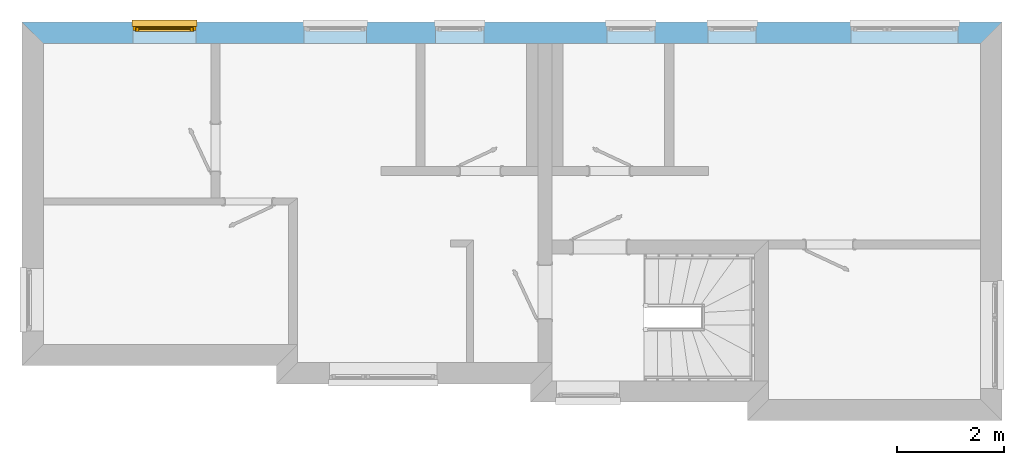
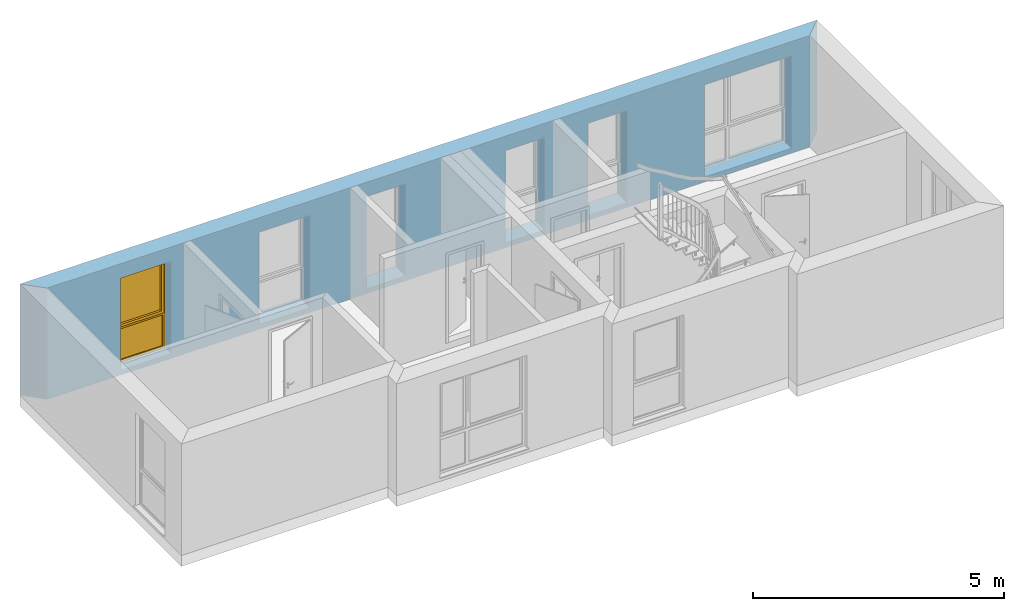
# One storey, part 14 of 16: 1 window, 6 openings, plus 1 element that does not belong to this part.
"""IFC2X3 building model written with IfcOpenShell, lengths in millimetres."""

import ifcopenshell
import ifcopenshell.guid

model = None  # the IFC model being written
_history = None  # IfcOwnerHistory: only IFC2X3 demands one
_inside = {}  # id of a spatial element -> (the spatial element, [elements in it])
_under = {}  # id of a project, library or spatial element -> (it, [spatial elements below it])
_declared = {}  # id of a project -> (the project, [libraries it declares])
_typed = {}  # id of a type object -> (the type object, [elements of that type])
_made_of = {}  # id of a material, layer set ... -> (it, [elements and type objects made of it])


def new_model(schema):
    """Start an empty IFC model of exactly this schema.

    Asked for "IFC4X3", IfcOpenShell would pick the latest addendum, in which some entities
    have other attributes; the version numbers below select the first issue.
    IFC2X3 requires an IfcOwnerHistory on every rooted entity: one is made here for all.
    """
    global model, _history
    if schema == "IFC4X3":
        model = ifcopenshell.file(schema_version=(4, 3, 0, 0))
    else:
        model = ifcopenshell.file(schema=schema)
    _inside.clear()
    _under.clear()
    _declared.clear()
    _typed.clear()
    _made_of.clear()
    _history = None
    if model.schema == "IFC2X3":
        org = make("IfcOrganization", Name="unknown")
        user = make(
            "IfcPersonAndOrganization",
            ThePerson=make("IfcPerson", FamilyName="unknown"),
            TheOrganization=org,
        )
        app = make(
            "IfcApplication",
            ApplicationDeveloper=org,
            Version="unknown",
            ApplicationFullName="unknown",
            ApplicationIdentifier="unknown",
        )
        _history = make(
            "IfcOwnerHistory",
            OwningUser=user,
            OwningApplication=app,
            ChangeAction="ADDED",
            CreationDate=0,
        )
    return model


def make(cls, **values):
    """One entity of the class cls with the attributes given. An attribute that is None is left unset."""
    return model.create_entity(
        cls, **{name: value for name, value in values.items() if value is not None}
    )


def rooted(cls, **values):
    """An entity with a GlobalId (a new one), such as an element, a storey or a relation."""
    return make(cls, GlobalId=ifcopenshell.guid.new(), OwnerHistory=_history, **values)


def si_unit(unit_type, name, prefix=None):
    """IfcSIUnit, for example si_unit("LENGTHUNIT", "METRE", prefix="MILLI")."""
    return make("IfcSIUnit", UnitType=unit_type, Prefix=prefix, Name=name)


def assignment(units):
    """IfcUnitAssignment: the units of a project."""
    return None if units is None else make("IfcUnitAssignment", Units=units)


def point(xyz):
    """IfcCartesianPoint."""
    return None if xyz is None else make("IfcCartesianPoint", Coordinates=xyz)


def direction(xyz):
    """IfcDirection."""
    return None if xyz is None else make("IfcDirection", DirectionRatios=xyz)


def frame(location, z_axis=None, x_axis=None):
    """IfcAxis2Placement3D, a coordinate frame: its origin and axes. An axis left out is left unset."""
    return make(
        "IfcAxis2Placement3D",
        Location=point(location),
        Axis=direction(z_axis),
        RefDirection=direction(x_axis),
    )


def origin_with_axes():
    """The frame at (0, 0, 0) with the z axis (0, 0, 1) and the x axis (1, 0, 0) written out."""
    return frame((0.0, 0.0, 0.0), z_axis=(0.0, 0.0, 1.0), x_axis=(1.0, 0.0, 0.0))


def place(relative_to, where):
    """IfcLocalPlacement: puts the frame where relative to a parent placement (None: the world)."""
    return make(
        "IfcLocalPlacement", PlacementRelTo=relative_to, RelativePlacement=where
    )


def context(
    kind, dimensions, precision=None, world=None, true_north=None, identifier=None
):
    """IfcGeometricRepresentationContext, for example the 3D "Model" context."""
    return make(
        "IfcGeometricRepresentationContext",
        ContextIdentifier=identifier,
        ContextType=kind,
        CoordinateSpaceDimension=dimensions,
        Precision=precision,
        WorldCoordinateSystem=world,
        TrueNorth=true_north,
    )


def project(units=None, contexts=None):
    """IfcProject with its units and contexts."""
    return rooted(
        "IfcProject",
        Name="project",
        RepresentationContexts=contexts,
        UnitsInContext=assignment(units),
    )


def spatial(cls, under=None, at=None, **own):
    """A site, building, storey or space (cls), placed at a placement, below another one or the project."""
    s = rooted(cls, ObjectPlacement=at, **own)
    if under is not None:
        _under.setdefault(under.id(), (under, []))[1].append(s)
    return s


def faces_of(points, faces, orient=None, outer=None):
    """IfcFace entities. A face is a list of loops; a loop is a list of indices into points, from 0.

    orient and outer hold one flag for each loop. By default every Orientation is true, the
    first loop of a face is its IfcFaceOuterBound and the others are IfcFaceBound.
    """
    made = []
    for i, loops in enumerate(faces):
        bounds = []
        for j, loop in enumerate(loops):
            is_outer = j == 0 if outer is None else outer[i][j]
            bounds.append(
                make(
                    "IfcFaceOuterBound" if is_outer else "IfcFaceBound",
                    Bound=make("IfcPolyLoop", Polygon=[points[k] for k in loop]),
                    Orientation=True if orient is None else orient[i][j],
                )
            )
        made.append(make("IfcFace", Bounds=bounds))
    return made


def faceted_brep(points, faces, orient=None, outer=None, voids=None):
    """IfcFacetedBrep: a solid bounded by flat faces; with voids (closed shells), ...WithVoids."""
    shared = [point(p) for p in points]
    hull = make("IfcClosedShell", CfsFaces=faces_of(shared, faces, orient, outer))
    if voids is None:
        return make("IfcFacetedBrep", Outer=hull)
    return make(
        "IfcFacetedBrepWithVoids",
        Outer=hull,
        Voids=[
            make(cls, CfsFaces=faces_of(shared, fs, o, b)) for cls, fs, o, b in voids
        ],
    )


def shape(context_of_items, identifier, shape_type, items):
    """IfcShapeRepresentation: the items that make up one representation, for example the "Body"."""
    return make(
        "IfcShapeRepresentation",
        ContextOfItems=context_of_items,
        RepresentationIdentifier=identifier,
        RepresentationType=shape_type,
        Items=items,
    )


def material(Name=None, Category=None):
    """IfcMaterial."""
    return make("IfcMaterial", Name=Name, Category=Category)


def layer(
    of_material, thickness, ventilated=None, Name=None, Category=None, Priority=None
):
    """IfcMaterialLayer: one layer of a wall or slab, of a material (None: an air gap)."""
    return make(
        "IfcMaterialLayer",
        Material=of_material,
        LayerThickness=thickness,
        IsVentilated=ventilated,
        Name=Name,
        Category=Category,
        Priority=Priority,
    )


def layer_set(layers, Name=None):
    """IfcMaterialLayerSet."""
    return make("IfcMaterialLayerSet", MaterialLayers=layers, LayerSetName=Name)


def layer_usage(for_layer_set, set_direction, sense, offset, extent=None):
    """IfcMaterialLayerSetUsage: how a layer set lies in its element."""
    return make(
        "IfcMaterialLayerSetUsage",
        ForLayerSet=for_layer_set,
        LayerSetDirection=set_direction,
        DirectionSense=sense,
        OffsetFromReferenceLine=offset,
        ReferenceExtent=extent,
    )


def made_of(thing, what):
    """Note that an element or type object is made of a material, layer set ...; save() writes the relation."""
    if what is not None:
        _made_of.setdefault(what.id(), (what, []))[1].append(thing)
    return thing


def type_object(cls, material=None, **own):
    """A type object (cls), such as IfcWallType, which elements share."""
    return made_of(rooted(cls, **own), material)


def element(
    cls,
    number,
    at=None,
    inside=None,
    cuts=None,
    type_object=None,
    material=None,
    context=None,
    identifier="Body",
    shape_type=None,
    held_by="IfcProductDefinitionShape",
    body=None,
    shapes=None,
    **own,
):
    """One element of the class cls, such as IfcWall. Its Tag is "e" and its number.

    at: its placement. inside: the storey or other place that contains it. cuts: it is an
    opening in that element (IfcRelVoidsElement). A single representation is given by context,
    identifier, shape_type and body (its items); several are given by shapes. held_by: the class
    of the entity that holds the representations. save() writes the other relations.
    """
    e = rooted(cls, Tag="e%d" % number, ObjectPlacement=at, **own)
    if body is not None:
        shapes = [shape(context, identifier, shape_type, body)]
    if shapes is not None:
        e.Representation = make(held_by, Representations=shapes)
    if inside is not None:
        _inside.setdefault(inside.id(), (inside, []))[1].append(e)
    if cuts is not None:
        rooted(
            "IfcRelVoidsElement", RelatingBuildingElement=cuts, RelatedOpeningElement=e
        )
    if type_object is not None:
        _typed.setdefault(type_object.id(), (type_object, []))[1].append(e)
    return made_of(e, material)


def fill(opening, filler):
    """IfcRelFillsElement: the door or window that sits in an opening."""
    return rooted(
        "IfcRelFillsElement",
        RelatingOpeningElement=opening,
        RelatedBuildingElement=filler,
    )


def aggregate(whole, parts):
    """IfcRelAggregates: a whole, such as a stair, and the parts it consists of."""
    return rooted("IfcRelAggregates", RelatingObject=whole, RelatedObjects=parts)


def save(model, path):
    """Write the relations noted so far, then the file.

    IfcRelAggregates (storeys below a building ...), IfcRelContainedInSpatialStructure (elements
    in a storey), IfcRelDefinesByType, IfcRelAssociatesMaterial and IfcRelDeclares: one each for
    every whole, place, type object, material and project.
    """
    for whole, parts in _under.values():
        aggregate(whole, parts)
    for where, things in _inside.values():
        rooted(
            "IfcRelContainedInSpatialStructure",
            RelatedElements=things,
            RelatingStructure=where,
        )
    for kind, things in _typed.values():
        rooted("IfcRelDefinesByType", RelatedObjects=things, RelatingType=kind)
    for what, things in _made_of.values():
        rooted("IfcRelAssociatesMaterial", RelatedObjects=things, RelatingMaterial=what)
    for by, libraries in _declared.values():
        rooted("IfcRelDeclares", RelatingContext=by, RelatedDefinitions=libraries)
    model.write(path)


model = new_model("IFC2X3")

# Units and contexts
model_context = context("Model", 3, world=origin_with_axes())
ifc_project = project(units=[si_unit("LENGTHUNIT", "METRE", prefix="MILLI")], contexts=[model_context])

# Site, building, storey
site_placement = place(None, origin_with_axes())
site = spatial("IfcSite", under=ifc_project, at=site_placement, Name="Site", CompositionType="ELEMENT")
building_placement = place(site_placement, origin_with_axes())
building = spatial("IfcBuilding", under=site, at=building_placement, Name="?", CompositionType="ELEMENT")
storey_placement = place(building_placement, frame((0.0, 0.0, 2969.0), z_axis=(0.0, 0.0, 1.0), x_axis=(1.0, 0.0, 0.0)))
storey = spatial("IfcBuildingStorey", under=building, at=storey_placement, Name="Obergeschoß 1", CompositionType="ELEMENT", Elevation=2969.0)

# Wall, openings, window
ifc_material = material(Name="Material_AW")
ifc_layer = layer(ifc_material, 395.0, ventilated=False)
ifc_layer_set = layer_set([ifc_layer], Name="MaterialLayerSet_AW")
ifc_layer_usage = layer_usage(ifc_layer_set, "AXIS2", "NEGATIVE", 197.5)
wall_placement = place(storey_placement, frame((197.5, -197.5, 0.0), z_axis=(0.0, 0.0, 1.0), x_axis=(1.0, 0.0, 0.0)))
wall = element("IfcWall", 1, at=wall_placement, inside=storey, material=ifc_layer_usage, Name="AW-11", context=model_context, shape_type="Brep", body=[
    faceted_brep([(17707.5008600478, -197.5, 0.0), (17707.5008600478, -197.5, 2707.0), (197.5, -197.5, 2707.0), (197.5, -197.5, 0.0), (18102.5001275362, 197.499999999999, 0.0), (18102.5001275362, 197.499999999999, 2707.0), (17707.5008600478, -197.500000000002, 2707.0), (17707.5008600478, -197.500000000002, 0.0), (-197.500233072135, 197.5, 0.0), (-197.500233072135, 197.5, 2707.0), (18102.5001275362, 197.5, 2707.0), (18102.5001275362, 197.5, 0.0), (197.5, -197.5, 0.0), (197.5, -197.5, 2707.0), (-197.500233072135, 197.5, 2707.0), (-197.500233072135, 197.5, 0.0), (197.5, -197.5, 0.0), (-197.500233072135, 197.5, 0.0), (18102.5001275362, 197.5, 0.0), (17707.5008600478, -197.5, 0.0), (-197.500233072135, 197.5, 2707.0), (197.5, -197.5, 2707.0), (17707.5008600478, -197.5, 2707.0), (18102.5001275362, 197.5, 2707.0)], [[[0, 1, 2, 3]], [[4, 5, 6, 7]], [[8, 9, 10, 11]], [[12, 13, 14, 15]], [[16, 17, 18, 19]], [[20, 21, 22, 23]]]),
])
opening_1_placement = place(wall_placement, frame((5067.5, 0.0, 116.0), z_axis=(0.0, 0.0, 1.0), x_axis=(1.0, 0.0, 0.0)))
element("IfcOpeningElement", 2, at=opening_1_placement, cuts=wall, Name="AW-11|FE11", context=model_context, shape_type="Brep", body=[
    faceted_brep([(0.0, 207.5, 0.0), (0.0, 207.5, 2244.0), (1170.0, 207.5, 2244.0), (1170.0, 207.5, 0.0), (0.0, -207.5, 0.0), (0.0, -207.5, 2244.0), (0.0, 207.5, 2244.0), (0.0, 207.5, 0.0), (1170.0, -207.5, 0.0), (0.0, -207.5, 0.0), (0.0, 207.5, 0.0), (1170.0, 207.5, 0.0), (1170.0, -207.5, 2244.0), (1170.0, -207.5, 0.0), (1170.0, 207.5, 0.0), (1170.0, 207.5, 2244.0), (0.0, -207.5, 2244.0), (1170.0, -207.5, 2244.0), (1170.0, 207.5, 2244.0), (0.0, 207.5, 2244.0), (0.0, -207.5, 0.0), (1170.0, -207.5, 0.0), (1170.0, -207.5, 2244.0), (0.0, -207.5, 2244.0)], [[[0, 1, 2, 3]], [[4, 5, 6, 7]], [[8, 9, 10, 11]], [[12, 13, 14, 15]], [[16, 17, 18, 19]], [[20, 21, 22, 23]]]),
])
opening_2_placement = place(wall_placement, frame((10723.5, 0.0, 116.0), z_axis=(0.0, 0.0, 1.0), x_axis=(1.0, 0.0, 0.0)))
element("IfcOpeningElement", 3, at=opening_2_placement, cuts=wall, Name="AW-11|FE13", context=model_context, shape_type="Brep", body=[
    faceted_brep([(0.0, 207.5, 0.0), (0.0, 207.5, 2244.0), (900.0, 207.5, 2244.0), (900.0, 207.5, 0.0), (0.0, -207.5, 0.0), (0.0, -207.5, 2244.0), (0.0, 207.5, 2244.0), (0.0, 207.5, 0.0), (900.0, -207.5, 0.0), (0.0, -207.5, 0.0), (0.0, 207.5, 0.0), (900.0, 207.5, 0.0), (900.0, -207.5, 2244.0), (900.0, -207.5, 0.0), (900.0, 207.5, 0.0), (900.0, 207.5, 2244.0), (0.0, -207.5, 2244.0), (900.0, -207.5, 2244.0), (900.0, 207.5, 2244.0), (0.0, 207.5, 2244.0), (0.0, -207.5, 0.0), (900.0, -207.5, 0.0), (900.0, -207.5, 2244.0), (0.0, -207.5, 2244.0)], [[[0, 1, 2, 3]], [[4, 5, 6, 7]], [[8, 9, 10, 11]], [[12, 13, 14, 15]], [[16, 17, 18, 19]], [[20, 21, 22, 23]]]),
])
opening_3_placement = place(wall_placement, frame((12613.5, 0.0, 116.0), z_axis=(0.0, 0.0, 1.0), x_axis=(1.0, 0.0, 0.0)))
element("IfcOpeningElement", 4, at=opening_3_placement, cuts=wall, Name="AW-11|FE14", context=model_context, shape_type="Brep", body=[
    faceted_brep([(0.0, 207.5, 0.0), (0.0, 207.5, 2244.0), (900.0, 207.5, 2244.0), (900.0, 207.5, 0.0), (0.0, -207.5, 0.0), (0.0, -207.5, 2244.0), (0.0, 207.5, 2244.0), (0.0, 207.5, 0.0), (900.0, -207.5, 0.0), (0.0, -207.5, 0.0), (0.0, 207.5, 0.0), (900.0, 207.5, 0.0), (900.0, -207.5, 2244.0), (900.0, -207.5, 0.0), (900.0, 207.5, 0.0), (900.0, 207.5, 2244.0), (0.0, -207.5, 2244.0), (900.0, -207.5, 2244.0), (900.0, 207.5, 2244.0), (0.0, 207.5, 2244.0), (0.0, -207.5, 0.0), (900.0, -207.5, 0.0), (900.0, -207.5, 2244.0), (0.0, -207.5, 2244.0)], [[[0, 1, 2, 3]], [[4, 5, 6, 7]], [[8, 9, 10, 11]], [[12, 13, 14, 15]], [[16, 17, 18, 19]], [[20, 21, 22, 23]]]),
])
opening_4_placement = place(wall_placement, frame((15287.5, 0.0, 116.0), z_axis=(0.0, 0.0, 1.0), x_axis=(1.0, 0.0, 0.0)))
element("IfcOpeningElement", 5, at=opening_4_placement, cuts=wall, Name="AW-11|FE15", context=model_context, shape_type="Brep", body=[
    faceted_brep([(0.0, 207.5, 0.0), (0.0, 207.5, 2244.0), (2000.0, 207.5, 2244.0), (2000.0, 207.5, 0.0), (0.0, -207.5, 0.0), (0.0, -207.5, 2244.0), (0.0, 207.5, 2244.0), (0.0, 207.5, 0.0), (2000.0, -207.5, 0.0), (0.0, -207.5, 0.0), (0.0, 207.5, 0.0), (2000.0, 207.5, 0.0), (2000.0, -207.5, 2244.0), (2000.0, -207.5, 0.0), (2000.0, 207.5, 0.0), (2000.0, 207.5, 2244.0), (0.0, -207.5, 2244.0), (2000.0, -207.5, 2244.0), (2000.0, 207.5, 2244.0), (0.0, 207.5, 2244.0), (0.0, -207.5, 0.0), (2000.0, -207.5, 0.0), (2000.0, -207.5, 2244.0), (0.0, -207.5, 2244.0)], [[[0, 1, 2, 3]], [[4, 5, 6, 7]], [[8, 9, 10, 11]], [[12, 13, 14, 15]], [[16, 17, 18, 19]], [[20, 21, 22, 23]]]),
])
opening_5_placement = place(wall_placement, frame((7527.5, 0.0, 116.0), z_axis=(0.0, 0.0, 1.0), x_axis=(1.0, 0.0, 0.0)))
element("IfcOpeningElement", 6, at=opening_5_placement, cuts=wall, Name="AW-11|FE12", context=model_context, shape_type="Brep", body=[
    faceted_brep([(0.0, 207.5, 0.0), (0.0, 207.5, 2244.0), (900.0, 207.5, 2244.0), (900.0, 207.5, 0.0), (0.0, -207.5, 0.0), (0.0, -207.5, 2244.0), (0.0, 207.5, 2244.0), (0.0, 207.5, 0.0), (900.0, -207.5, 0.0), (0.0, -207.5, 0.0), (0.0, 207.5, 0.0), (900.0, 207.5, 0.0), (900.0, -207.5, 2244.0), (900.0, -207.5, 0.0), (900.0, 207.5, 0.0), (900.0, 207.5, 2244.0), (0.0, -207.5, 2244.0), (900.0, -207.5, 2244.0), (900.0, 207.5, 2244.0), (0.0, 207.5, 2244.0), (0.0, -207.5, 0.0), (900.0, -207.5, 0.0), (900.0, -207.5, 2244.0), (0.0, -207.5, 2244.0)], [[[0, 1, 2, 3]], [[4, 5, 6, 7]], [[8, 9, 10, 11]], [[12, 13, 14, 15]], [[16, 17, 18, 19]], [[20, 21, 22, 23]]]),
])
opening_6_placement = place(wall_placement, frame((1877.5, 0.0, 116.0), z_axis=(0.0, 0.0, 1.0), x_axis=(1.0, 0.0, 0.0)))
opening_6 = element("IfcOpeningElement", 7, at=opening_6_placement, cuts=wall, Name="AW-11|FE10", context=model_context, shape_type="Brep", body=[
    faceted_brep([(0.0, 207.5, 0.0), (0.0, 207.5, 2244.0), (1170.0, 207.5, 2244.0), (1170.0, 207.5, 0.0), (0.0, -207.5, 0.0), (0.0, -207.5, 2244.0), (0.0, 207.5, 2244.0), (0.0, 207.5, 0.0), (1170.0, -207.5, 0.0), (0.0, -207.5, 0.0), (0.0, 207.5, 0.0), (1170.0, 207.5, 0.0), (1170.0, -207.5, 2244.0), (1170.0, -207.5, 0.0), (1170.0, 207.5, 0.0), (1170.0, 207.5, 2244.0), (0.0, -207.5, 2244.0), (1170.0, -207.5, 2244.0), (1170.0, 207.5, 2244.0), (0.0, 207.5, 2244.0), (0.0, -207.5, 0.0), (1170.0, -207.5, 0.0), (1170.0, -207.5, 2244.0), (0.0, -207.5, 2244.0)], [[[0, 1, 2, 3]], [[4, 5, 6, 7]], [[8, 9, 10, 11]], [[12, 13, 14, 15]], [[16, 17, 18, 19]], [[20, 21, 22, 23]]]),
])
window_style = type_object("IfcWindowStyle", Name="FE10", ConstructionType="NOTDEFINED", OperationType="DOUBLE_PANEL_HORIZONTAL", ParameterTakesPrecedence=True, Sizeable=False)
window_placement = place(opening_6_placement, frame((1170.0, 77.5, 0.0), z_axis=(0.0, 0.0, 1.0), x_axis=(-1.0, 0.0, 0.0)))
window = element("IfcWindow", 8, at=window_placement, inside=storey, type_object=window_style, Name="FE10", OverallHeight=2244.0, OverallWidth=1170.0, context=model_context, shape_type="Brep", body=[
    faceted_brep([(0.0, -36.0, 0.0), (1170.0, -36.0, 0.0), (1155.0, -36.0, 15.0), (15.0, -36.0, 15.0), (15.0, 36.0, 15.0), (1155.0, 36.0, 15.0), (1170.0, 36.0, 0.0), (0.0, 36.0, 0.0), (0.0, 36.0, 0.0), (1170.0, 36.0, 0.0), (1170.0, -36.0, 0.0), (0.0, -36.0, 0.0), (1170.0, -36.0, 0.0), (1170.0, -36.0, 2244.0), (1155.0, -36.0, 2229.0), (1155.0, -36.0, 15.0), (1155.0, 36.0, 15.0), (1155.0, 36.0, 2229.0), (1170.0, 36.0, 2244.0), (1170.0, 36.0, 0.0), (1170.0, 36.0, 0.0), (1170.0, 36.0, 2244.0), (1170.0, -36.0, 2244.0), (1170.0, -36.0, 0.0), (1170.0, -36.0, 2244.0), (0.0, -36.0, 2244.0), (15.0, -36.0, 2229.0), (1155.0, -36.0, 2229.0), (1155.0, 36.0, 2229.0), (15.0, 36.0, 2229.0), (0.0, 36.0, 2244.0), (1170.0, 36.0, 2244.0), (1170.0, 36.0, 2244.0), (0.0, 36.0, 2244.0), (0.0, -36.0, 2244.0), (1170.0, -36.0, 2244.0), (0.0, -36.0, 2244.0), (0.0, -36.0, 0.0), (15.0, -36.0, 15.0), (15.0, -36.0, 2229.0), (15.0, 36.0, 2229.0), (15.0, 36.0, 15.0), (0.0, 36.0, 0.0), (0.0, 36.0, 2244.0), (0.0, 36.0, 2244.0), (0.0, 36.0, 0.0), (0.0, -36.0, 0.0), (0.0, -36.0, 2244.0), (1155.0, 36.0, 15.0), (15.0, 36.0, 15.0), (53.0, 36.0, 53.0), (1117.0, 36.0, 53.0), (1117.0, 36.0, 53.0), (53.0000000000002, 36.0, 53.0), (60.0000000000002, 24.9985352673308, 60.0009767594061), (1110.0, 24.9985352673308, 60.0009767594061), (1110.0, 25.0, 60.0), (60.0, 25.0, 60.0), (60.0, 12.0, 60.0), (1110.0, 12.0, 60.0), (1110.0, -12.0, 60.0), (60.0, -12.0, 60.0), (60.0, -25.0, 60.0), (1110.0, -25.0, 60.0), (1110.0, 12.0, 60.0), (60.0, 12.0, 60.0), (43.0, 12.0, 43.0), (1127.0, 12.0, 43.0), (1127.0, 12.0, 43.0), (43.0, 12.0, 43.0), (43.0, -12.0, 43.0), (1127.0, -12.0, 43.0), (1127.0, -12.0, 43.0), (43.0, -12.0, 43.0), (60.0, -12.0, 60.0), (1110.0, -12.0, 60.0), (1110.0, -25.0, 60.0), (60.0, -25.0, 60.0), (53.0, -36.0014647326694, 52.9990232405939), (1117.0, -36.0014647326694, 52.9990232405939), (1117.0, -36.0, 53.0), (53.0, -36.0, 53.0), (15.0, -36.0, 15.0), (1155.0, -36.0, 15.0), (1155.0, 36.0, 855.0), (1155.0, 36.0, 15.0), (1117.0, 36.0, 53.0), (1117.0, 36.0, 817.0), (1117.0, 35.9999999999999, 817.00048828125), (1117.0, 35.9999999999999, 53.00048828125), (1109.99902324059, 24.9985352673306, 60.00048828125), (1109.99902324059, 24.9985352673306, 810.00048828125), (1110.0, 25.0, 810.0), (1110.0, 25.0, 60.0), (1110.0, 12.0, 60.0), (1110.0, 12.0, 810.0), (1110.0, -12.0, 810.0), (1110.0, -12.0, 60.0), (1110.0, -25.0, 60.0), (1110.0, -25.0, 810.0), (1110.0, 12.0, 810.0), (1110.0, 12.0, 60.0), (1127.0, 12.0, 43.0), (1127.0, 12.0, 827.0), (1127.0, 12.0, 827.000244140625), (1127.0, 12.0, 43.000244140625), (1127.0, -12.0, 43.000244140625), (1127.0, -12.0, 827.000244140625), (1127.0, -12.0, 827.000244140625), (1127.0, -12.0, 43.000244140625), (1110.0, -12.0, 60.000244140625), (1110.0, -12.0, 810.000244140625), (1110.0, -25.0, 810.0), (1110.0, -25.0, 60.0), (1117.00097675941, -36.0014647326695, 53.0), (1117.00097675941, -36.0014647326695, 817.0), (1117.0, -36.0, 817.00048828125), (1117.0, -36.0, 53.00048828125), (1155.0, -36.0, 15.00048828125), (1155.0, -36.0, 855.00048828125), (15.0, 36.0, 855.0), (43.0, 36.0, 883.0), (1127.0, 36.0, 883.0), (1155.0, 36.0, 855.0), (1117.0, 36.0, 817.0), (53.0, 36.0, 817.0), (53.0, 36.0, 817.0), (1117.0, 36.0, 817.0), (1110.0, 24.9985352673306, 809.999023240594), (60.0, 24.9985352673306, 809.999023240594), (60.0, 25.0, 810.0), (1110.0, 25.0, 810.0), (1110.0, 12.0, 810.0), (60.0, 12.0, 810.0), (60.0, -12.0, 810.0), (1110.0, -12.0, 810.0), (1110.0, -25.0, 810.0), (60.0, -25.0, 810.0), (60.0, 12.0, 810.0), (1110.0, 12.0, 810.0), (1127.0, 12.0, 827.0), (43.0, 12.0, 827.0), (43.0, 12.0, 827.0), (1127.0, 12.0, 827.0), (1127.0, -12.0, 827.0), (43.0, -12.0, 827.0), (43.0, -12.0, 827.0), (1127.0, -12.0, 827.0), (1110.0, -12.0, 810.0), (60.0, -12.0, 810.0), (59.9999999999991, -25.0, 810.0), (1110.0, -25.0, 810.0), (1117.0, -36.0014647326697, 817.000976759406), (52.9999999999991, -36.0014647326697, 817.000976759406), (53.0, -36.0, 817.0), (1117.0, -36.0, 817.0), (1155.0, -36.0, 855.0), (1117.0, -36.0, 893.0), (53.0, -36.0, 893.0), (15.0, -36.0, 855.0), (1127.0, 36.0, 883.0), (43.0, 36.0, 883.0), (43.0, -21.0, 883.0), (1127.0, -21.0, 883.0), (1127.0, -21.0, 883.0), (43.0, -21.0, 883.0), (60.0, -21.0, 900.0), (1110.0, -21.0, 900.0), (1110.0, -21.0, 900.0), (60.0, -21.0, 900.0), (60.0, -25.0, 900.0), (1110.0, -25.0, 900.0), (1110.0, -25.0, 900.0), (59.9999999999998, -25.0, 900.0), (52.9999999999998, -36.0014647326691, 892.999023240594), (1117.0, -36.0014647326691, 892.999023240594), (15.0, 36.0, 15.0), (15.0, 36.0, 855.0), (53.0, 36.0, 817.0), (53.0, 36.0, 53.0), (53.0, 36.0, 52.9999999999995), (53.0, 36.0, 817.0), (60.0009767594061, 24.9985352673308, 810.0), (60.0009767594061, 24.9985352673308, 59.9999999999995), (60.0, 25.0, 60.0), (60.0, 25.0, 810.0), (60.0, 12.0, 810.0), (60.0, 12.0, 60.0), (60.0, -12.0, 60.0), (60.0, -12.0, 810.0), (60.0, -25.0, 810.0), (60.0, -25.0, 60.0), (60.0, 12.0, 60.0), (60.0, 12.0, 810.0), (43.0, 12.0, 827.0), (43.0, 12.0, 43.0), (43.0, 12.0, 42.999755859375), (43.0, 12.0, 826.999755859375), (43.0, -12.0, 826.999755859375), (43.0, -12.0, 42.999755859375), (43.0, -12.0, 42.999755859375), (43.0, -12.0, 826.999755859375), (60.0, -12.0, 809.999755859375), (60.0, -12.0, 59.999755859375), (60.0, -25.0, 60.0), (60.0, -25.0, 810.0), (52.9990232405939, -36.0014647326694, 817.0), (52.9990232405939, -36.0014647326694, 53.0), (53.0, -36.0, 53.0), (53.0, -36.0, 817.0), (15.0, -36.0, 855.0), (15.0, -36.0, 15.0), (1155.0, 36.0, 2229.0), (1155.0, 36.0, 855.0), (1127.0, 36.0, 883.0), (1127.0, 36.0, 2201.0), (1127.0, 36.0, 2201.0), (1127.0, 36.0, 883.0), (1127.0, -21.0, 883.0), (1127.0, -21.0, 2201.0), (1127.0, -21.0, 2201.0), (1127.0, -21.0, 883.0), (1110.0, -21.0, 900.0), (1110.0, -21.0, 2184.0), (1110.0, -21.0, 2184.0), (1110.0, -21.0, 900.0), (1110.0, -25.0, 900.0), (1110.0, -25.0, 2184.0), (1110.0, -25.0, 2184.0), (1110.0, -25.0, 900.0), (1117.00097675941, -36.0014647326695, 893.0), (1117.00097675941, -36.0014647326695, 2191.0), (1117.0, -36.0, 2191.0), (1117.0, -36.0, 893.0), (1155.0, -36.0, 855.0), (1155.0, -36.0, 2229.0), (15.0, 36.0, 2229.0), (1155.0, 36.0, 2229.0), (1127.0, 36.0, 2201.0), (43.0, 36.0, 2201.0), (43.0, 36.0, 2201.0), (1127.0, 36.0, 2201.0), (1127.0, -21.0, 2201.0), (43.0, -21.0, 2201.0), (43.0, -21.0, 2201.0), (1127.0, -21.0, 2201.0), (1110.0, -21.0, 2184.0), (60.0, -21.0, 2184.0), (60.0, -21.0, 2184.0), (1110.0, -21.0, 2184.0), (1110.0, -25.0, 2184.0), (60.0, -25.0, 2184.0), (60.0, -25.0, 2184.0), (1110.0, -25.0, 2184.0), (1117.0, -36.0014647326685, 2191.00097675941), (53.0, -36.0014647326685, 2191.00097675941), (53.0, -36.0, 2191.0), (1117.0, -36.0, 2191.0), (1155.0, -36.0, 2229.0), (15.0, -36.0, 2229.0), (15.0, 36.0, 855.0), (15.0, 36.0, 2229.0), (43.0, 36.0, 2201.0), (43.0, 36.0, 883.0), (43.0, 36.0, 882.999755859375), (43.0, 36.0, 2201.0), (43.0, -21.0, 2201.0), (43.0, -21.0, 882.999755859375), (43.0, -21.0, 882.999755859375), (43.0, -21.0, 2201.0), (60.0, -21.0, 2184.0), (60.0, -21.0, 899.999755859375), (60.0, -21.0, 900.0), (60.0, -21.0, 2184.0), (60.0, -25.0, 2184.0), (60.0, -25.0, 900.0), (60.0, -25.0, 900.0), (60.0, -25.0, 2184.0), (52.9990232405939, -36.0014647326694, 2191.0), (52.9990232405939, -36.0014647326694, 893.0), (53.0, -36.0, 893.0), (53.0, -36.0, 2191.0), (15.0, -36.0, 2229.0), (15.0, -36.0, 855.0), (1137.0, 52.0, 873.0), (33.0, 52.0, 873.0), (96.0, 52.0, 936.0), (1074.0, 52.0, 936.0), (1074.0, 52.0, 936.0), (96.0, 52.0, 936.0), (110.0, 19.9985360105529, 950.00048798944), (1060.0, 19.9985360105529, 950.00048798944), (1060.0, 20.0, 950.0), (110.0, 20.0, 950.0), (103.0, 20.0, 943.0), (1067.0, 20.0, 943.0), (1067.0, 20.0, 943.0), (103.0, 20.0, 943.0), (103.0, -4.0, 943.0), (1067.0, -4.0, 943.0), (1067.0, -4.0, 943.0), (103.0, -4.0, 943.0), (110.0, -4.0, 950.0), (1060.0, -4.0, 950.0), (1060.0, -4.0, 950.0), (110.0, -4.0, 950.0), (102.0, -21.0014648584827, 941.999267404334), (1068.0, -21.0014648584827, 941.999267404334), (1068.0, -21.0, 942.0), (102.0, -21.0, 942.0), (51.0, -21.0, 891.0), (1119.0, -21.0, 891.0), (1119.0, -21.0, 891.0), (51.0, -21.0, 891.0), (51.0, 36.0, 891.0), (1119.0, 36.0, 891.0), (1119.0, 36.0, 891.0), (51.0, 36.0, 891.0), (33.0, 36.0, 873.0), (1137.0, 36.0, 873.0), (1137.0, 36.0, 873.0), (33.0, 36.0, 873.0), (33.0, 52.0, 873.0), (1137.0, 52.0, 873.0), (1137.0, 52.0, 2210.99951171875), (1137.0, 52.0, 872.99951171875), (1074.0, 52.0, 935.99951171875), (1074.0, 52.0, 2147.99951171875), (1074.0, 52.0000000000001, 2148.0), (1074.0, 52.0000000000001, 936.0), (1059.99902341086, 19.9985357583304, 950.0), (1059.99902341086, 19.9985357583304, 2134.0), (1060.0, 20.0, 2134.00048828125), (1060.0, 20.0, 950.00048828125), (1067.0, 20.0, 943.00048828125), (1067.0, 20.0, 2141.00048828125), (1067.0, 20.0, 2141.0), (1067.0, 20.0, 943.0), (1067.0, -4.0, 943.0), (1067.0, -4.0, 2141.0), (1067.0, -4.0, 2141.0), (1067.0, -4.0, 943.0), (1060.0, -4.0, 950.0), (1060.0, -4.0, 2134.0), (1060.0, -4.0, 2134.00048828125), (1060.0, -4.0, 950.00048828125), (1068.00097677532, -21.0014648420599, 942.00048828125), (1068.00097677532, -21.0014648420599, 2142.00048828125), (1068.0, -21.0, 2142.0), (1068.0, -21.0, 942.0), (1119.0, -21.0, 891.0), (1119.0, -21.0, 2193.0), (1119.0, -21.0, 2193.0), (1119.0, -21.0, 891.0), (1119.0, 36.0, 891.0), (1119.0, 36.0, 2193.0), (1119.0, 36.0, 2193.0), (1119.0, 36.0, 891.0), (1137.0, 36.0, 873.0), (1137.0, 36.0, 2211.0), (1137.0, 36.0, 2210.99951171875), (1137.0, 36.0, 872.99951171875), (1137.0, 52.0, 872.99951171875), (1137.0, 52.0, 2210.99951171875), (33.0, 52.0, 2211.0), (1137.0, 52.0, 2211.0), (1074.0, 52.0, 2148.0), (96.0, 52.0, 2148.0), (95.9999999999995, 52.0, 2148.0), (1074.0, 52.0, 2148.0), (1060.0, 19.9985360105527, 2133.99951201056), (110.0, 19.9985360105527, 2133.99951201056), (110.0, 20.0, 2134.0), (1060.0, 20.0, 2134.0), (1067.0, 20.0, 2141.0), (103.0, 20.0, 2141.0), (103.0, 20.0, 2141.0), (1067.0, 20.0, 2141.0), (1067.0, -4.0, 2141.0), (103.0, -4.0, 2141.0), (103.0, -4.0, 2141.0), (1067.0, -4.0, 2141.0), (1060.0, -4.0, 2134.0), (110.0, -4.0, 2134.0), (110.0, -4.0, 2134.0), (1060.0, -4.0, 2134.0), (1068.0, -21.0014648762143, 2142.00048841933), (102.0, -21.0014648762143, 2142.00048841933), (102.0, -21.0, 2142.0), (1068.0, -21.0, 2142.0), (1119.0, -21.0, 2193.0), (51.0, -21.0, 2193.0), (51.0, -21.0, 2193.0), (1119.0, -21.0, 2193.0), (1119.0, 36.0, 2193.0), (51.0, 36.0, 2193.0), (51.0, 36.0, 2193.0), (1119.0, 36.0, 2193.0), (1137.0, 36.0, 2211.0), (33.0, 36.0, 2211.0), (33.0, 36.0, 2211.0), (1137.0, 36.0, 2211.0), (1137.0, 52.0, 2211.0), (33.0, 52.0, 2211.0), (33.0, 52.0, 873.00048828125), (33.0, 52.0, 2211.00048828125), (96.0, 52.0, 2148.00048828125), (96.0, 52.0, 936.00048828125), (96.0, 52.0, 935.999755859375), (96.0, 52.0, 2148.0), (110.00048798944, 19.9985360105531, 2134.0), (110.00048798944, 19.9985360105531, 949.999755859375), (110.0, 20.0, 949.999755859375), (110.0, 20.0, 2134.0), (103.0, 20.0, 2141.0), (103.0, 20.0, 942.999755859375), (103.0, 20.0, 942.999755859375), (103.0, 20.0, 2141.0), (103.0, -4.0, 2141.0), (103.0, -4.0, 942.999755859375), (103.0, -4.0, 942.999755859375), (103.0, -4.0, 2141.0), (110.0, -4.0, 2134.0), (110.0, -4.0, 949.999755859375), (110.0, -4.0, 949.999755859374), (110.0, -4.0, 2134.0), (101.999023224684, -21.0014648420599, 2142.0), (101.999023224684, -21.0014648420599, 941.999755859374), (102.0, -21.0, 942.0), (102.0, -21.0, 2142.0), (51.0, -21.0, 2193.0), (51.0, -21.0, 891.0), (51.0, -21.0, 890.999755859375), (51.0, -21.0, 2193.0), (51.0, 36.0, 2193.0), (51.0, 36.0, 890.999755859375), (51.0, 36.0, 890.999755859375), (51.0, 36.0, 2193.0), (33.0, 36.0, 2211.0), (33.0, 36.0, 872.999755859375), (33.0, 36.0, 873.00048828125), (33.0, 36.0, 2211.00048828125), (33.0, 52.0, 2211.00048828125), (33.0, 52.0, 873.00048828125), (60.0, 12.0, 60.0), (60.0, 12.0, 810.0), (1110.0, 12.0, 810.0), (1110.0, 12.0, 60.0), (60.0, -12.0, 60.0), (1110.0, -12.0, 60.0), (1110.0, -12.0, 810.0), (60.0, -12.0, 810.0), (110.0, 20.0, 950.0), (110.0, 20.0, 2134.0), (1060.0, 20.0, 2134.0), (1060.0, 20.0, 950.0), (110.0, -4.0, 950.0), (1060.0, -4.0, 950.0), (1060.0, -4.0, 2134.0), (110.0, -4.0, 2134.0), (-20.0, -36.0, 0.5), (-20.0, -160.0, 0.5), (1190.0, -160.0, 0.5), (1190.0, -36.0, 0.5), (-20.0, -36.0, -19.5), (-20.0, -36.0, 0.5), (1190.0, -36.0, 0.5), (1190.0, -36.0, -19.5), (-20.0, -160.0, -19.5), (-20.0, -36.0, -19.5), (1190.0, -36.0, -19.5), (1190.0, -160.0, -19.5), (-20.0, -160.0, 0.5), (-20.0, -160.0, -19.5), (1190.0, -160.0, -19.5), (1190.0, -160.0, 0.5), (-20.0, -160.0, -19.5), (-20.0, -160.0, 0.5), (-20.0, -36.0, 0.5), (-20.0, -36.0, -19.5), (1190.0, -160.0, 0.5), (1190.0, -160.0, -19.5), (1190.0, -36.0, -19.5), (1190.0, -36.0, 0.5)], [[[0, 1, 2, 3]], [[4, 5, 6, 7]], [[8, 9, 10, 11]], [[12, 13, 14, 15]], [[16, 17, 18, 19]], [[20, 21, 22, 23]], [[24, 25, 26, 27]], [[28, 29, 30, 31]], [[32, 33, 34, 35]], [[36, 37, 38, 39]], [[40, 41, 42, 43]], [[44, 45, 46, 47]], [[48, 49, 50, 51]], [[52, 53, 54, 55]], [[56, 57, 58, 59]], [[60, 61, 62, 63]], [[64, 65, 66, 67]], [[68, 69, 70, 71]], [[72, 73, 74, 75]], [[76, 77, 78, 79]], [[80, 81, 82, 83]], [[84, 85, 86, 87]], [[88, 89, 90, 91]], [[92, 93, 94, 95]], [[96, 97, 98, 99]], [[100, 101, 102, 103]], [[104, 105, 106, 107]], [[108, 109, 110, 111]], [[112, 113, 114, 115]], [[116, 117, 118, 119]], [[120, 121, 122, 123, 124, 125]], [[126, 127, 128, 129]], [[130, 131, 132, 133]], [[134, 135, 136, 137]], [[138, 139, 140, 141]], [[142, 143, 144, 145]], [[146, 147, 148, 149]], [[150, 151, 152, 153]], [[154, 155, 156, 157, 158, 159]], [[160, 161, 162, 163]], [[164, 165, 166, 167]], [[168, 169, 170, 171]], [[172, 173, 174, 175]], [[176, 177, 178, 179]], [[180, 181, 182, 183]], [[184, 185, 186, 187]], [[188, 189, 190, 191]], [[192, 193, 194, 195]], [[196, 197, 198, 199]], [[200, 201, 202, 203]], [[204, 205, 206, 207]], [[208, 209, 210, 211]], [[212, 213, 214, 215]], [[216, 217, 218, 219]], [[220, 221, 222, 223]], [[224, 225, 226, 227]], [[228, 229, 230, 231]], [[232, 233, 234, 235]], [[236, 237, 238, 239]], [[240, 241, 242, 243]], [[244, 245, 246, 247]], [[248, 249, 250, 251]], [[252, 253, 254, 255]], [[256, 257, 258, 259]], [[260, 261, 262, 263]], [[264, 265, 266, 267]], [[268, 269, 270, 271]], [[272, 273, 274, 275]], [[276, 277, 278, 279]], [[280, 281, 282, 283]], [[284, 285, 286, 287]], [[288, 289, 290, 291]], [[292, 293, 294, 295]], [[296, 297, 298, 299]], [[300, 301, 302, 303]], [[304, 305, 306, 307]], [[308, 309, 310, 311]], [[312, 313, 314, 315]], [[316, 317, 318, 319]], [[320, 321, 322, 323]], [[324, 325, 326, 327]], [[328, 329, 330, 331]], [[332, 333, 334, 335]], [[336, 337, 338, 339]], [[340, 341, 342, 343]], [[344, 345, 346, 347]], [[348, 349, 350, 351]], [[352, 353, 354, 355]], [[356, 357, 358, 359]], [[360, 361, 362, 363]], [[364, 365, 366, 367]], [[368, 369, 370, 371]], [[372, 373, 374, 375]], [[376, 377, 378, 379]], [[380, 381, 382, 383]], [[384, 385, 386, 387]], [[388, 389, 390, 391]], [[392, 393, 394, 395]], [[396, 397, 398, 399]], [[400, 401, 402, 403]], [[404, 405, 406, 407]], [[408, 409, 410, 411]], [[412, 413, 414, 415]], [[416, 417, 418, 419]], [[420, 421, 422, 423]], [[424, 425, 426, 427]], [[428, 429, 430, 431]], [[432, 433, 434, 435]], [[436, 437, 438, 439]], [[440, 441, 442, 443]], [[444, 445, 446, 447]], [[448, 449, 450, 451]], [[452, 453, 454, 455]], [[456, 457, 458, 459]], [[460, 461, 462, 463]], [[464, 465, 466, 467]], [[468, 469, 470, 471]], [[472, 473, 474, 475]], [[476, 477, 478, 479]], [[480, 481, 482, 483]]]),
])
fill(opening_6, window)

save(model, "model.ifc")
